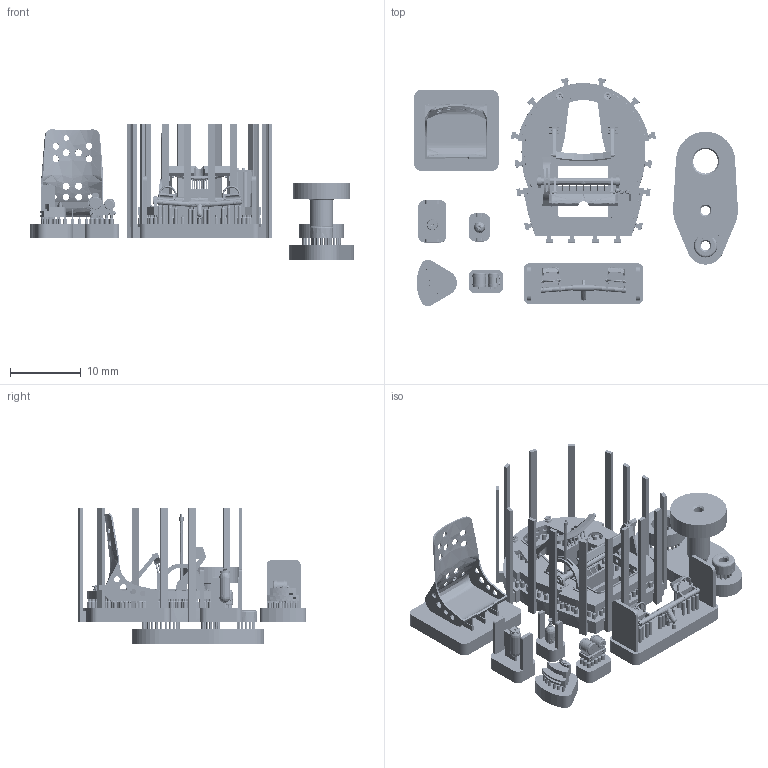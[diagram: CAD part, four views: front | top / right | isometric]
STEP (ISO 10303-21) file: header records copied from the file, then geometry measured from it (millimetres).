
FILE_DESCRIPTION(/* description */ (''),/* implementation_level */ '2;1');
FILE_NAME(/* name */ 'MITSUB~1',/* time_stamp */ '2020-06-09T20:57:47+02:00',/* author */ (''),/* organization */ (''),/* preprocessor_version */ 'ST-DEVELOPER v16.5',/* originating_system */ '',/* authorisation */ '');
FILE_SCHEMA (('AUTOMOTIVE_DESIGN'));
Products named in the file (1): Document
Bounding box: 45.92 x 32.4 x 19.15 mm (x, y, z)
Volume: 2206.7 mm3; surface area: 5661.8 mm2
Topology: 8 solids, 8 shells, 3368 faces, 8457 edges, 5159 vertices
Faces by surface type: bspline 2609, plane 759
Entity records: 120393 total; most frequent: CARTESIAN_POINT 71735, ORIENTED_EDGE 16826, EDGE_CURVE 8413, VERTEX_POINT 5161, EDGE_LOOP 4220, B_SPLINE_CURVE_WITH_KNOTS 4103, ADVANCED_FACE 3368, FACE_OUTER_BOUND 3368
